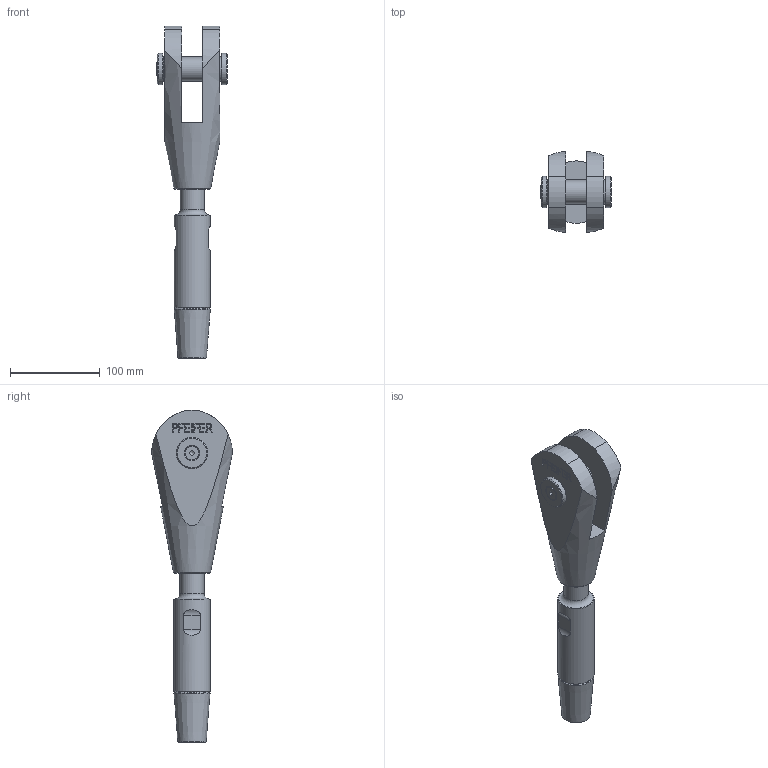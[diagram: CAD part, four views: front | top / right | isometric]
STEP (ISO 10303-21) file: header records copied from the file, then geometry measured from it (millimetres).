
FILE_DESCRIPTION(/* description */ (''),/* implementation_level */ '2;1');
FILE_NAME(/* name */ 'G:\Engineering\700 CAD\Internet-PX-1-step-igs-dxf\520-GAK-ADA-Arbeitsdateien\520-027-GAK-ADA.stp',/* time_stamp */ '2020-07-03T13:06:51+02:00',/* author */ ('schwarz'),/* organization */ (''),/* preprocessor_version */ 'ST-DEVELOPER v16.1',/* originating_system */ 'Autodesk Inventor 2016',/* authorisation */ '');
FILE_SCHEMA (('AUTOMOTIVE_DESIGN { 1 0 10303 214 3 1 1 }'));
Length unit declared in the file: centimetre
Products named in the file (1): 520-027-GAK-ADA-Kunde
Bounding box: 78.51 x 90.08 x 370.5 mm (x, y, z)
Volume: 663361.6 mm3; surface area: 93797.9 mm2
Topology: 2 solids, 3 shells, 198 faces, 509 edges, 338 vertices
Faces by surface type: plane 140, cylinder 22, bspline 21, cone 14, torus 1
Full cylindrical faces by diameter (mm): 6.647 x1, 8 x1, 9 x1, 15.24 x1, 27 x2, 28.5 x1, 30 x2, 35 x2, 40.5 x1
Entity records: 6160 total; most frequent: CARTESIAN_POINT 1412, ORIENTED_EDGE 944, DIRECTION 812, EDGE_CURVE 472, LINE 356, VECTOR 356, VERTEX_POINT 328, EDGE_LOOP 250
